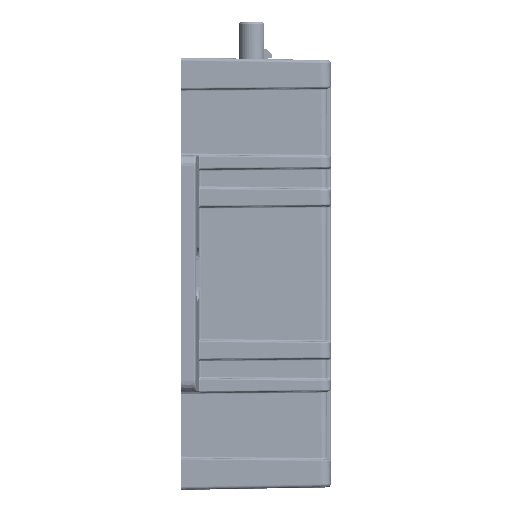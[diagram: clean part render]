
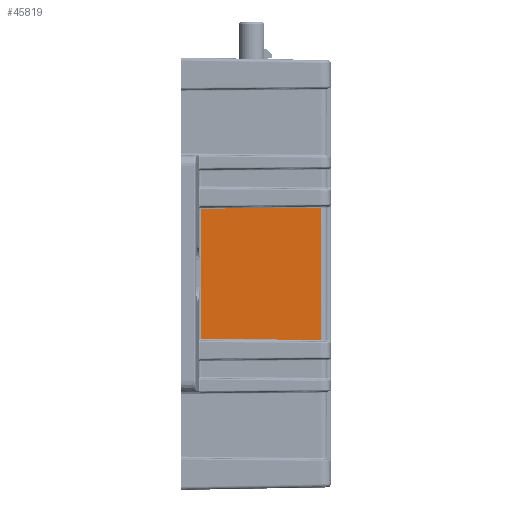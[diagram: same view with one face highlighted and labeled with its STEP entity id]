
A CAD part, left-side view. The second image highlights one B-rep face of the part: STEP entity #45819.
In plain terms, the highlighted planar face has unit normal (-1, -0.018, 0).
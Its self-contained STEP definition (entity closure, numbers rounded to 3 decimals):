
#219 = CARTESIAN_POINT ( 'NONE',  ( -88.9, -5.778, -19.167 ) ) ;
#958 = CARTESIAN_POINT ( 'NONE',  ( -89., 0., 63.7 ) ) ;
#2673 = EDGE_CURVE ( 'NONE', #56626, #32422, #45329, .T. ) ;
#3213 = B_SPLINE_CURVE_WITH_KNOTS ( 'NONE', 3,
 ( #113684, #16360, #56546, #112995, #88089, #99252 ),
 .UNSPECIFIED., .F., .F.,
 ( 4, 2, 4 ),
 ( 0., 0.001, 0.001 ),
 .UNSPECIFIED. ) ;
#3924 = ORIENTED_EDGE ( 'NONE', *, *, #101997, .T. ) ;
#4540 = LINE ( 'NONE', #37443, #36527 ) ;
#7809 = EDGE_CURVE ( 'NONE', #132054, #64723, #40434, .T. ) ;
#9850 = CARTESIAN_POINT ( 'NONE',  ( -88.901, -5.706, -4. ) ) ;
#10172 = CARTESIAN_POINT ( 'NONE',  ( -88.901, -5.706, 4.231 ) ) ;
#10396 = ORIENTED_EDGE ( 'NONE', *, *, #7809, .T. ) ;
#10721 = CARTESIAN_POINT ( 'NONE',  ( -88.9, -5.778, 19.167 ) ) ;
#15967 = AXIS2_PLACEMENT_3D ( 'NONE', #958, #43008, #138240 ) ;
#16360 = CARTESIAN_POINT ( 'NONE',  ( -88.901, -5.706, -4.231 ) ) ;
#17840 = CARTESIAN_POINT ( 'NONE',  ( -88.901, -5.706, 4. ) ) ;
#19464 = CARTESIAN_POINT ( 'NONE',  ( -88.994, -0.389, 19.119 ) ) ;
#22045 = CARTESIAN_POINT ( 'NONE',  ( -88.901, -5.706, 4. ) ) ;
#23433 = VECTOR ( 'NONE', #125115, 1000. ) ;
#25841 = ORIENTED_EDGE ( 'NONE', *, *, #106699, .T. ) ;
#26767 = ORIENTED_EDGE ( 'NONE', *, *, #111422, .F. ) ;
#29714 = EDGE_CURVE ( 'NONE', #64723, #102534, #127316, .T. ) ;
#31203 = CARTESIAN_POINT ( 'NONE',  ( -88.9, -5.778, 5.153 ) ) ;
#31340 = CARTESIAN_POINT ( 'NONE',  ( -88.9, -5.778, 5.384 ) ) ;
#31448 = CARTESIAN_POINT ( 'NONE',  ( -88.9, -5.778, -19.163 ) ) ;
#32422 = VERTEX_POINT ( 'NONE', #39506 ) ;
#34835 = DIRECTION ( 'NONE',  ( 0.017, -1., -0.009 ) ) ;
#36527 = VECTOR ( 'NONE', #79473, 1000. ) ;
#37064 = VECTOR ( 'NONE', #93703, 1000. ) ;
#37443 = CARTESIAN_POINT ( 'NONE',  ( -88.901, -5.706, 63.7 ) ) ;
#39506 = CARTESIAN_POINT ( 'NONE',  ( -88.284, -41.035, -19.474 ) ) ;
#40434 = LINE ( 'NONE', #104860, #23433 ) ;
#41330 = EDGE_LOOP ( 'NONE', ( #25841, #10396, #83201, #123581, #131806, #3924, #73107, #26767 ) ) ;
#43008 = DIRECTION ( 'NONE',  ( 1., 0.017, 0. ) ) ;
#44384 = PLANE ( 'NONE',  #15967 ) ;
#45329 = LINE ( 'NONE', #55138, #60547 ) ;
#45819 = ADVANCED_FACE ( 'NONE', ( #96908 ), #44384, .F. ) ;
#55138 = CARTESIAN_POINT ( 'NONE',  ( -89.013, 0.722, -19.11 ) ) ;
#56546 = CARTESIAN_POINT ( 'NONE',  ( -88.9, -5.722, -4.462 ) ) ;
#56626 = VERTEX_POINT ( 'NONE', #219 ) ;
#60547 = VECTOR ( 'NONE', #34835, 1000. ) ;
#62849 = VERTEX_POINT ( 'NONE', #114631 ) ;
#63444 = CARTESIAN_POINT ( 'NONE',  ( -88.9, -5.722, 4.462 ) ) ;
#64484 = VECTOR ( 'NONE', #109161, 1000. ) ;
#64723 = VERTEX_POINT ( 'NONE', #31340 ) ;
#66485 = LINE ( 'NONE', #129488, #64484 ) ;
#69024 = EDGE_CURVE ( 'NONE', #102534, #98885, #4540, .T. ) ;
#73107 = ORIENTED_EDGE ( 'NONE', *, *, #2673, .T. ) ;
#74619 = CARTESIAN_POINT ( 'NONE',  ( -88.9, -5.759, 4.922 ) ) ;
#79465 = EDGE_CURVE ( 'NONE', #98885, #126040, #3213, .T. ) ;
#79473 = DIRECTION ( 'NONE',  ( 0., 0., -1. ) ) ;
#83201 = ORIENTED_EDGE ( 'NONE', *, *, #29714, .T. ) ;
#88089 = CARTESIAN_POINT ( 'NONE',  ( -88.9, -5.778, -5.153 ) ) ;
#93703 = DIRECTION ( 'NONE',  ( -0.017, 1., -0.009 ) ) ;
#95107 = LINE ( 'NONE', #19464, #37064 ) ;
#95188 = DIRECTION ( 'NONE',  ( 0., 0., -1. ) ) ;
#96908 = FACE_OUTER_BOUND ( 'NONE', #41330, .T. ) ;
#98885 = VERTEX_POINT ( 'NONE', #9850 ) ;
#99252 = CARTESIAN_POINT ( 'NONE',  ( -88.9, -5.778, -5.384 ) ) ;
#101997 = EDGE_CURVE ( 'NONE', #126040, #56626, #105712, .T. ) ;
#102534 = VERTEX_POINT ( 'NONE', #17840 ) ;
#104860 = CARTESIAN_POINT ( 'NONE',  ( -88.9, -5.778, -19.163 ) ) ;
#105137 = VECTOR ( 'NONE', #95188, 1000. ) ;
#105712 = LINE ( 'NONE', #31448, #105137 ) ;
#106699 = EDGE_CURVE ( 'NONE', #62849, #132054, #95107, .T. ) ;
#109161 = DIRECTION ( 'NONE',  ( 0., 0., -1. ) ) ;
#111422 = EDGE_CURVE ( 'NONE', #62849, #32422, #66485, .T. ) ;
#112995 = CARTESIAN_POINT ( 'NONE',  ( -88.9, -5.759, -4.922 ) ) ;
#113684 = CARTESIAN_POINT ( 'NONE',  ( -88.901, -5.706, -4. ) ) ;
#114631 = CARTESIAN_POINT ( 'NONE',  ( -88.284, -41.035, 19.474 ) ) ;
#117981 = CARTESIAN_POINT ( 'NONE',  ( -88.9, -5.778, 5.384 ) ) ;
#121864 = CARTESIAN_POINT ( 'NONE',  ( -88.9, -5.778, -5.384 ) ) ;
#123581 = ORIENTED_EDGE ( 'NONE', *, *, #69024, .T. ) ;
#125115 = DIRECTION ( 'NONE',  ( 0., 0., -1. ) ) ;
#126040 = VERTEX_POINT ( 'NONE', #121864 ) ;
#127316 = B_SPLINE_CURVE_WITH_KNOTS ( 'NONE', 3,
 ( #117981, #31203, #74619, #63444, #10172, #22045 ),
 .UNSPECIFIED., .F., .F.,
 ( 4, 2, 4 ),
 ( 0., 0.001, 0.001 ),
 .UNSPECIFIED. ) ;
#129488 = CARTESIAN_POINT ( 'NONE',  ( -88.284, -41.035, 63.7 ) ) ;
#131806 = ORIENTED_EDGE ( 'NONE', *, *, #79465, .T. ) ;
#132054 = VERTEX_POINT ( 'NONE', #10721 ) ;
#138240 = DIRECTION ( 'NONE',  ( -0.017, 1., 0. ) ) ;
